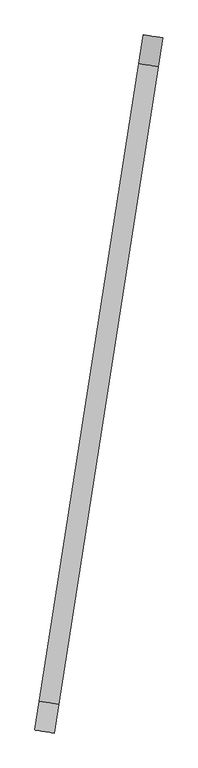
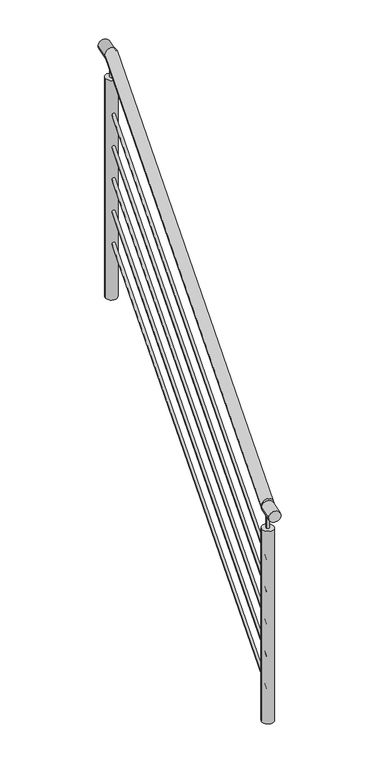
"""IFC4 building model written with IfcOpenShell, lengths in millimetres: railing geometry, Barandal acero inox - escalera."""

from ifc_helpers import new_model, si_unit, point, frame, frame_2d, origin, place, context, project, spatial, circle_curve, ellipse_curve, trimmed, segment, composite_curve, outline, extrude, source, transform, mapped, element, save
from ifc_brep_helpers import plane_surface, cylinder_surface, advanced_brep


def railing_bd3c78b1(model_context):
    return source(origin(), model_context, "Body", "SolidModel", [
        advanced_brep(
        [(-31911.8313057, -68213.129215, -396.875), (-31962.0252265, -68205.3055131, -396.875), (-31656.9761667, -66578.0747497, 619.5414715), (-31707.1700875, -66570.2510478, 619.5414715)],
        [
            (0, 1, ellipse_curve(frame((-31936.9282661, -68209.217364, -396.875), z_axis=(-0.15400987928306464, -0.988069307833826, 0.0), x_axis=(0.0, 0.0, -1.0)), 29.8087294, 25.4)),
            (1, 0, ellipse_curve(frame((-31936.9282661, -68209.217364, -396.875), z_axis=(-0.15400987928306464, -0.988069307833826, 0.0), x_axis=(0.0, 0.0, -1.0)), 29.8087294, 25.4)),
            (2, 3, ellipse_curve(frame((-31682.0731271, -66574.1628987, 619.5414715), z_axis=(0.15400987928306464, 0.988069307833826, 0.0), x_axis=(0.0, 0.0, -1.0)), 29.8087294, 25.4)),
            (3, 2, ellipse_curve(frame((-31682.0731271, -66574.1628987, 619.5414715), z_axis=(0.15400987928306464, 0.988069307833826, 0.0), x_axis=(0.0, 0.0, -1.0)), 29.8087294, 25.4)),
            (0, 2),
            (3, 1),
        ],
        [
            plane_surface(frame((-31936.9282661, -68209.217364, -396.875), z_axis=(-0.15400987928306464, -0.988069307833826, 0.0), x_axis=(0.988069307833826, -0.15400987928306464, 0.0))),
            plane_surface(frame((-31682.0731271, -66574.1628987, 619.5414715), z_axis=(0.15400987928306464, 0.988069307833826, 0.0), x_axis=(0.988069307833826, -0.15400987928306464, 0.0))),
            cylinder_surface(frame((-31936.9282661, -68209.217364, -396.875), z_axis=(-0.1312317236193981, -0.8419332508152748, -0.5233800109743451), x_axis=(-0.988069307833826, 0.15400987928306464, 0.0)), 25.4),
        ],
        [
            (0, [[1, 2]]),
            (1, [[3, 4]]),
            (2, [[-1, 5, -4, 6]]),
            (2, [[-2, -6, -3, -5]]),
        ],
    ),
        advanced_brep(
        [(-31930.654026, -68210.1953268, -646.875), (-31943.2025062, -68208.2394013, -646.875), (-31675.798887, -66575.1408615, 369.5414715), (-31688.3473672, -66573.184936, 369.5414715)],
        [
            (0, 1, ellipse_curve(frame((-31936.9282661, -68209.217364, -646.875), z_axis=(-0.15400987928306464, -0.988069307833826, 0.0), x_axis=(0.0, 0.0, -1.0)), 7.4521823, 6.35)),
            (1, 0, ellipse_curve(frame((-31936.9282661, -68209.217364, -646.875), z_axis=(-0.15400987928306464, -0.988069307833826, 0.0), x_axis=(0.0, 0.0, -1.0)), 7.4521823, 6.35)),
            (2, 3, ellipse_curve(frame((-31682.0731271, -66574.1628987, 369.5414715), z_axis=(0.15400987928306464, 0.988069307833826, 0.0), x_axis=(0.0, 0.0, -1.0)), 7.4521823, 6.35)),
            (3, 2, ellipse_curve(frame((-31682.0731271, -66574.1628987, 369.5414715), z_axis=(0.15400987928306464, 0.988069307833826, 0.0), x_axis=(0.0, 0.0, -1.0)), 7.4521823, 6.35)),
            (0, 2),
            (3, 1),
        ],
        [
            plane_surface(frame((-31936.9282661, -68209.217364, -646.875), z_axis=(-0.15400987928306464, -0.988069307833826, 0.0), x_axis=(0.988069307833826, -0.15400987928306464, 0.0))),
            plane_surface(frame((-31682.0731271, -66574.1628987, 369.5414715), z_axis=(0.15400987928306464, 0.988069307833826, 0.0), x_axis=(0.988069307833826, -0.15400987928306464, 0.0))),
            cylinder_surface(frame((-31936.9282661, -68209.217364, -646.875), z_axis=(-0.1312317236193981, -0.8419332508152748, -0.5233800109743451), x_axis=(-0.988069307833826, 0.15400987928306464, 0.0)), 6.35),
        ],
        [
            (0, [[1, 2]]),
            (1, [[3, 4]]),
            (2, [[-1, 5, -4, 6]]),
            (2, [[-2, -6, -3, -5]]),
        ],
    ),
        advanced_brep(
        [(-31930.654026, -68210.1953268, -796.875), (-31943.2025062, -68208.2394013, -796.875), (-31675.798887, -66575.1408615, 219.5414715), (-31688.3473672, -66573.184936, 219.5414715)],
        [
            (0, 1, ellipse_curve(frame((-31936.9282661, -68209.217364, -796.875), z_axis=(-0.15400987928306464, -0.988069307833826, 0.0), x_axis=(0.0, 0.0, -1.0)), 7.4521823, 6.35)),
            (1, 0, ellipse_curve(frame((-31936.9282661, -68209.217364, -796.875), z_axis=(-0.15400987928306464, -0.988069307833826, 0.0), x_axis=(0.0, 0.0, -1.0)), 7.4521823, 6.35)),
            (2, 3, ellipse_curve(frame((-31682.0731271, -66574.1628987, 219.5414715), z_axis=(0.15400987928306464, 0.988069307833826, 0.0), x_axis=(0.0, 0.0, -1.0)), 7.4521823, 6.35)),
            (3, 2, ellipse_curve(frame((-31682.0731271, -66574.1628987, 219.5414715), z_axis=(0.15400987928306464, 0.988069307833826, 0.0), x_axis=(0.0, 0.0, -1.0)), 7.4521823, 6.35)),
            (0, 2),
            (3, 1),
        ],
        [
            plane_surface(frame((-31936.9282661, -68209.217364, -796.875), z_axis=(-0.15400987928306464, -0.988069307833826, 0.0), x_axis=(0.988069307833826, -0.15400987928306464, 0.0))),
            plane_surface(frame((-31682.0731271, -66574.1628987, 219.5414715), z_axis=(0.15400987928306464, 0.988069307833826, 0.0), x_axis=(0.988069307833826, -0.15400987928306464, 0.0))),
            cylinder_surface(frame((-31936.9282661, -68209.217364, -796.875), z_axis=(-0.1312317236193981, -0.8419332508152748, -0.5233800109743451), x_axis=(-0.988069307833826, 0.15400987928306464, 0.0)), 6.35),
        ],
        [
            (0, [[1, 2]]),
            (1, [[3, 4]]),
            (2, [[-1, 5, -4, 6]]),
            (2, [[-2, -6, -3, -5]]),
        ],
    ),
        advanced_brep(
        [(-31930.654026, -68210.1953268, -946.875), (-31943.2025062, -68208.2394013, -946.875), (-31675.798887, -66575.1408615, 69.5414715), (-31688.3473672, -66573.184936, 69.5414715)],
        [
            (0, 1, ellipse_curve(frame((-31936.9282661, -68209.217364, -946.875), z_axis=(-0.15400987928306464, -0.988069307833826, 0.0), x_axis=(0.0, 0.0, -1.0)), 7.4521823, 6.35)),
            (1, 0, ellipse_curve(frame((-31936.9282661, -68209.217364, -946.875), z_axis=(-0.15400987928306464, -0.988069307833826, 0.0), x_axis=(0.0, 0.0, -1.0)), 7.4521823, 6.35)),
            (2, 3, ellipse_curve(frame((-31682.0731271, -66574.1628987, 69.5414715), z_axis=(0.15400987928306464, 0.988069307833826, 0.0), x_axis=(0.0, 0.0, -1.0)), 7.4521823, 6.35)),
            (3, 2, ellipse_curve(frame((-31682.0731271, -66574.1628987, 69.5414715), z_axis=(0.15400987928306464, 0.988069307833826, 0.0), x_axis=(0.0, 0.0, -1.0)), 7.4521823, 6.35)),
            (0, 2),
            (3, 1),
        ],
        [
            plane_surface(frame((-31936.9282661, -68209.217364, -946.875), z_axis=(-0.15400987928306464, -0.988069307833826, 0.0), x_axis=(0.988069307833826, -0.15400987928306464, 0.0))),
            plane_surface(frame((-31682.0731271, -66574.1628987, 69.5414715), z_axis=(0.15400987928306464, 0.988069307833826, 0.0), x_axis=(0.988069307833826, -0.15400987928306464, 0.0))),
            cylinder_surface(frame((-31936.9282661, -68209.217364, -946.875), z_axis=(-0.1312317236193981, -0.8419332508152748, -0.5233800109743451), x_axis=(-0.988069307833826, 0.15400987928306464, 0.0)), 6.35),
        ],
        [
            (0, [[1, 2]]),
            (1, [[3, 4]]),
            (2, [[-1, 5, -4, 6]]),
            (2, [[-2, -6, -3, -5]]),
        ],
    ),
        advanced_brep(
        [(-31930.654026, -68210.1953268, -1096.875), (-31943.2025062, -68208.2394013, -1096.875), (-31675.798887, -66575.1408615, -80.4585285), (-31688.3473672, -66573.184936, -80.4585285)],
        [
            (0, 1, ellipse_curve(frame((-31936.9282661, -68209.217364, -1096.875), z_axis=(-0.15400987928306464, -0.988069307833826, 0.0), x_axis=(0.0, 0.0, -1.0)), 7.4521823, 6.35)),
            (1, 0, ellipse_curve(frame((-31936.9282661, -68209.217364, -1096.875), z_axis=(-0.15400987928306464, -0.988069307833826, 0.0), x_axis=(0.0, 0.0, -1.0)), 7.4521823, 6.35)),
            (2, 3, ellipse_curve(frame((-31682.0731271, -66574.1628987, -80.4585285), z_axis=(0.15400987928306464, 0.988069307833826, 0.0), x_axis=(0.0, 0.0, -1.0)), 7.4521823, 6.35)),
            (3, 2, ellipse_curve(frame((-31682.0731271, -66574.1628987, -80.4585285), z_axis=(0.15400987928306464, 0.988069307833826, 0.0), x_axis=(0.0, 0.0, -1.0)), 7.4521823, 6.35)),
            (0, 2),
            (3, 1),
        ],
        [
            plane_surface(frame((-31936.9282661, -68209.217364, -1096.875), z_axis=(-0.15400987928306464, -0.988069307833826, 0.0), x_axis=(0.988069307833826, -0.15400987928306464, 0.0))),
            plane_surface(frame((-31682.0731271, -66574.1628987, -80.4585285), z_axis=(0.15400987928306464, 0.988069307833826, 0.0), x_axis=(0.988069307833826, -0.15400987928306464, 0.0))),
            cylinder_surface(frame((-31936.9282661, -68209.217364, -1096.875), z_axis=(-0.1312317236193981, -0.8419332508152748, -0.5233800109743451), x_axis=(-0.988069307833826, 0.15400987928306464, 0.0)), 6.35),
        ],
        [
            (0, [[1, 2]]),
            (1, [[3, 4]]),
            (2, [[-1, 5, -4, 6]]),
            (2, [[-2, -6, -3, -5]]),
        ],
    ),
        advanced_brep(
        [(-31930.654026, -68210.1953268, -1246.875), (-31943.2025062, -68208.2394013, -1246.875), (-31675.798887, -66575.1408615, -230.4585285), (-31688.3473672, -66573.184936, -230.4585285)],
        [
            (0, 1, ellipse_curve(frame((-31936.9282661, -68209.217364, -1246.875), z_axis=(-0.15400987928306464, -0.988069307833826, 0.0), x_axis=(0.0, 0.0, -1.0)), 7.4521823, 6.35)),
            (1, 0, ellipse_curve(frame((-31936.9282661, -68209.217364, -1246.875), z_axis=(-0.15400987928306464, -0.988069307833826, 0.0), x_axis=(0.0, 0.0, -1.0)), 7.4521823, 6.35)),
            (2, 3, ellipse_curve(frame((-31682.0731271, -66574.1628987, -230.4585285), z_axis=(0.15400987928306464, 0.988069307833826, 0.0), x_axis=(0.0, 0.0, -1.0)), 7.4521823, 6.35)),
            (3, 2, ellipse_curve(frame((-31682.0731271, -66574.1628987, -230.4585285), z_axis=(0.15400987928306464, 0.988069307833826, 0.0), x_axis=(0.0, 0.0, -1.0)), 7.4521823, 6.35)),
            (0, 2),
            (3, 1),
        ],
        [
            plane_surface(frame((-31936.9282661, -68209.217364, -1246.875), z_axis=(-0.15400987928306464, -0.988069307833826, 0.0), x_axis=(0.988069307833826, -0.15400987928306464, 0.0))),
            plane_surface(frame((-31682.0731271, -66574.1628987, -230.4585285), z_axis=(0.15400987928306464, 0.988069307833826, 0.0), x_axis=(0.988069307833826, -0.15400987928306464, 0.0))),
            cylinder_surface(frame((-31936.9282661, -68209.217364, -1246.875), z_axis=(-0.1312317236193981, -0.8419332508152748, -0.5233800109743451), x_axis=(-0.988069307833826, 0.15400987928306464, 0.0)), 6.35),
        ],
        [
            (0, [[1, 2]]),
            (1, [[3, 4]]),
            (2, [[-1, 5, -4, 6]]),
            (2, [[-2, -6, -3, -5]]),
        ],
    ),
        extrude(outline(composite_curve([segment(trimmed(circle_curve(frame_2d((0.0, 25.4)), 25.4), [point((0.0, 50.8))], [point((0.0, 0.0))], False, "CARTESIAN"), True, "CONTINUOUS"), segment(trimmed(circle_curve(frame_2d((0.0, 25.4)), 25.4), [point((0.0, 0.0))], [point((0.0, 50.8))], False, "CARTESIAN"), True, "CONTINUOUS")], self_intersect=False)), frame((-31656.9761667, -66578.0747497, 615.1327421), z_axis=(0.1540098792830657, 0.9880693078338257, 0.0), x_axis=(0.0, 0.0, -1.0)), (0.0, 0.0, 1.0), 75.0),
        extrude(outline(composite_curve([segment(trimmed(circle_curve(frame_2d((-31682.0731271, -66574.1628987)), 6.35), [point((-31688.3473672, -66573.184936))], [point((-31675.798887, -66575.1408615))], False, "CARTESIAN"), True, "CONTINUOUS"), segment(trimmed(circle_curve(frame_2d((-31682.0731271, -66574.1628987)), 6.35), [point((-31675.798887, -66575.1408615))], [point((-31688.3473672, -66573.184936))], False, "CARTESIAN"), True, "CONTINUOUS")], self_intersect=False)), frame((0.0, 0.0, 514.7327421), z_axis=(0.0, 0.0, 1.0), x_axis=(1.0, 0.0, 0.0)), (0.0, 0.0, 1.0), 75.0),
        extrude(outline(composite_curve([segment(trimmed(circle_curve(frame_2d((-31682.0731271, -66574.1628987)), 25.4), [point((-31707.1700875, -66570.2510478))], [point((-31656.9761667, -66578.0747497))], False, "CARTESIAN"), True, "CONTINUOUS"), segment(trimmed(circle_curve(frame_2d((-31682.0731271, -66574.1628987)), 25.4), [point((-31656.9761667, -66578.0747497))], [point((-31707.1700875, -66570.2510478))], False, "CARTESIAN"), True, "CONTINUOUS")], self_intersect=False)), frame((0.0, 0.0, -506.25), z_axis=(0.0, 0.0, 1.0), x_axis=(1.0, 0.0, 0.0)), (0.0, 0.0, 1.0), 1020.9827421),
        extrude(outline(composite_curve([segment(trimmed(circle_curve(frame_2d((0.0, 25.4000001)), 25.4), [point((0.0, 50.8000001))], [point((0.0, 0.0))], False, "CARTESIAN"), True, "CONTINUOUS"), segment(trimmed(circle_curve(frame_2d((0.0, 25.4000001)), 25.4), [point((0.0, 0.0))], [point((0.0, 50.8000001))], False, "CARTESIAN"), True, "CONTINUOUS")], self_intersect=False)), frame((-31923.3820466, -68287.2344131, -401.2837294), z_axis=(0.1540098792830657, 0.9880693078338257, 0.0), x_axis=(0.0, 0.0, -1.0)), (0.0, 0.0, 1.0), 75.0),
        extrude(outline(composite_curve([segment(trimmed(circle_curve(frame_2d((-31936.9282661, -68209.217364)), 6.35), [point((-31943.2025062, -68208.2394013))], [point((-31930.654026, -68210.1953268))], False, "CARTESIAN"), True, "CONTINUOUS"), segment(trimmed(circle_curve(frame_2d((-31936.9282661, -68209.217364)), 6.35), [point((-31930.654026, -68210.1953268))], [point((-31943.2025062, -68208.2394013))], False, "CARTESIAN"), True, "CONTINUOUS")], self_intersect=False)), frame((0.0, 0.0, -501.6837294), z_axis=(0.0, 0.0, 1.0), x_axis=(1.0, 0.0, 0.0)), (0.0, 0.0, 1.0), 75.0),
        extrude(outline(composite_curve([segment(trimmed(circle_curve(frame_2d((-31936.9282661, -68209.217364)), 25.4), [point((-31962.0252265, -68205.3055131))], [point((-31911.8313057, -68213.129215))], False, "CARTESIAN"), True, "CONTINUOUS"), segment(trimmed(circle_curve(frame_2d((-31936.9282661, -68209.217364)), 25.4), [point((-31911.8313057, -68213.129215))], [point((-31962.0252265, -68205.3055131))], False, "CARTESIAN"), True, "CONTINUOUS")], self_intersect=False)), frame((0.0, 0.0, -1396.875), z_axis=(0.0, 0.0, 1.0), x_axis=(1.0, 0.0, 0.0)), (0.0, 0.0, 1.0), 895.1912706),
    ])


if __name__ == "__main__":
    model = new_model("IFC4")
    model_context = context("Model", 3, world=origin())
    ifc_project = project(units=[si_unit("LENGTHUNIT", "METRE", prefix="MILLI")], contexts=[model_context])
    site = spatial("IfcSite", under=ifc_project)
    building = spatial("IfcBuilding", under=site)
    placement = place(None, origin())
    railing_shape = railing_bd3c78b1(model_context)
    element("IfcRailing", 1, ObjectType="Barandal acero inox - escalera", at=placement, inside=building, context=model_context, shape_type="MappedRepresentation", body=[
        mapped(railing_shape, transform((0.0, 0.0, 0.0), x_axis=(1.0, 0.0, 0.0), y_axis=(0.0, 1.0, 0.0), z_axis=(0.0, 0.0, 1.0))),
    ])
    save(model, "model.ifc")
